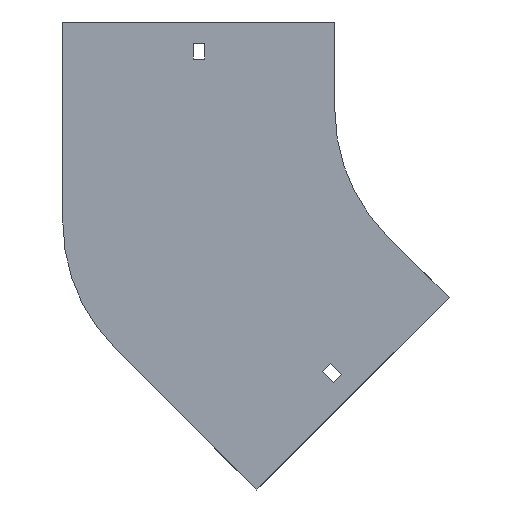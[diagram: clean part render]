
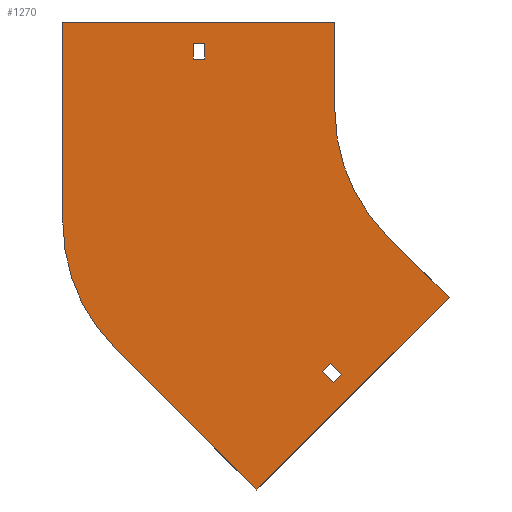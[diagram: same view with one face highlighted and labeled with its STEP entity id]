
A CAD part, front view. The second image highlights one B-rep face of the part: STEP entity #1270.
In plain terms, the highlighted planar face has unit normal (0, -1, 0).
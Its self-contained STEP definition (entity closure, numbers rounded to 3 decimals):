
#6 = LINE ( 'NONE', #275, #1631 ) ;
#25 = CARTESIAN_POINT ( 'NONE',  ( -254., 0., -63.789 ) ) ;
#28 = DIRECTION ( 'NONE',  ( 0., 0., 1. ) ) ;
#57 = CARTESIAN_POINT ( 'NONE',  ( -180.25, 0., 29. ) ) ;
#60 = EDGE_CURVE ( 'NONE', #469, #1370, #6, .T. ) ;
#84 = VECTOR ( 'NONE', #1503, 1000. ) ;
#89 = DIRECTION ( 'NONE',  ( 0., 0., -1. ) ) ;
#100 = VERTEX_POINT ( 'NONE', #1043 ) ;
#114 = ORIENTED_EDGE ( 'NONE', *, *, #833, .F. ) ;
#126 = CARTESIAN_POINT ( 'NONE',  ( -254., 0., 50. ) ) ;
#138 = DIRECTION ( 'NONE',  ( 0., 1., 0. ) ) ;
#139 = DIRECTION ( 'NONE',  ( 0., 0., -1. ) ) ;
#146 = ORIENTED_EDGE ( 'NONE', *, *, #430, .T. ) ;
#167 = DIRECTION ( 'NONE',  ( 0.707, 0., -0.707 ) ) ;
#214 = VERTEX_POINT ( 'NONE', #126 ) ;
#216 = EDGE_CURVE ( 'NONE', #415, #469, #1035, .T. ) ;
#219 = ORIENTED_EDGE ( 'NONE', *, *, #648, .F. ) ;
#224 = CARTESIAN_POINT ( 'NONE',  ( -173.75, 0., 29. ) ) ;
#234 = LINE ( 'NONE', #224, #393 ) ;
#251 = EDGE_CURVE ( 'NONE', #1370, #1879, #713, .T. ) ;
#254 = ORIENTED_EDGE ( 'NONE', *, *, #1469, .F. ) ;
#268 = CARTESIAN_POINT ( 'NONE',  ( -100., 0., 50. ) ) ;
#275 = CARTESIAN_POINT ( 'NONE',  ( -35.355, 0., -106.066 ) ) ;
#288 = LINE ( 'NONE', #1487, #1776 ) ;
#306 = LINE ( 'NONE', #903, #84 ) ;
#314 = AXIS2_PLACEMENT_3D ( 'NONE', #390, #406, #89 ) ;
#334 = EDGE_CURVE ( 'NONE', #748, #415, #842, .T. ) ;
#354 = EDGE_LOOP ( 'NONE', ( #818, #524, #114, #1863, #419, #404, #1283, #1840 ) ) ;
#357 = CARTESIAN_POINT ( 'NONE',  ( -70.711, 0., -70.711 ) ) ;
#364 = EDGE_CURVE ( 'NONE', #957, #214, #1535, .T. ) ;
#381 = EDGE_CURVE ( 'NONE', #1086, #664, #1058, .T. ) ;
#390 = CARTESIAN_POINT ( 'NONE',  ( 0., 0., 0. ) ) ;
#393 = VECTOR ( 'NONE', #578, 1000. ) ;
#395 = DIRECTION ( 'NONE',  ( 1., 0., 0. ) ) ;
#404 = ORIENTED_EDGE ( 'NONE', *, *, #216, .F. ) ;
#406 = DIRECTION ( 'NONE',  ( 0., -1., 0. ) ) ;
#415 = VERTEX_POINT ( 'NONE', #357 ) ;
#416 = DIRECTION ( 'NONE',  ( 1., 0., 0. ) ) ;
#419 = ORIENTED_EDGE ( 'NONE', *, *, #60, .F. ) ;
#421 = CARTESIAN_POINT ( 'NONE',  ( -180.25, 0., 38. ) ) ;
#430 = EDGE_CURVE ( 'NONE', #1444, #1750, #1163, .T. ) ;
#443 = DIRECTION ( 'NONE',  ( 0., 0., 1. ) ) ;
#469 = VERTEX_POINT ( 'NONE', #1015 ) ;
#524 = ORIENTED_EDGE ( 'NONE', *, *, #364, .F. ) ;
#529 = LINE ( 'NONE', #57, #1551 ) ;
#537 = ORIENTED_EDGE ( 'NONE', *, *, #1078, .T. ) ;
#551 = DIRECTION ( 'NONE',  ( -0.707, 0., -0.707 ) ) ;
#552 = FACE_BOUND ( 'NONE', #1874, .T. ) ;
#556 = CARTESIAN_POINT ( 'NONE',  ( -180.25, 0., 38. ) ) ;
#578 = DIRECTION ( 'NONE',  ( 0., 0., -1. ) ) ;
#648 = EDGE_CURVE ( 'NONE', #1376, #100, #306, .T. ) ;
#664 = VERTEX_POINT ( 'NONE', #1443 ) ;
#679 = VECTOR ( 'NONE', #1493, 1000. ) ;
#704 = EDGE_LOOP ( 'NONE', ( #537, #146, #1749, #1809 ) ) ;
#713 = LINE ( 'NONE', #1321, #679 ) ;
#743 = VECTOR ( 'NONE', #416, 1000. ) ;
#748 = VERTEX_POINT ( 'NONE', #1252 ) ;
#761 = DIRECTION ( 'NONE',  ( 0., 0., -1. ) ) ;
#785 = CARTESIAN_POINT ( 'NONE',  ( -254., 0., -63.789 ) ) ;
#793 = EDGE_CURVE ( 'NONE', #1750, #1574, #234, .T. ) ;
#814 = ORIENTED_EDGE ( 'NONE', *, *, #1432, .F. ) ;
#818 = ORIENTED_EDGE ( 'NONE', *, *, #1789, .F. ) ;
#833 = EDGE_CURVE ( 'NONE', #1879, #957, #972, .T. ) ;
#842 = CIRCLE ( 'NONE', #1854, 100. ) ;
#847 = VECTOR ( 'NONE', #1063, 1000. ) ;
#859 = CARTESIAN_POINT ( 'NONE',  ( -254., 0., 50. ) ) ;
#903 = CARTESIAN_POINT ( 'NONE',  ( -102.354, 0., -143.366 ) ) ;
#933 = VECTOR ( 'NONE', #167, 1000. ) ;
#935 = VECTOR ( 'NONE', #443, 1000. ) ;
#957 = VERTEX_POINT ( 'NONE', #25 ) ;
#963 = CARTESIAN_POINT ( 'NONE',  ( -106.95, 0., -147.962 ) ) ;
#972 = CIRCLE ( 'NONE', #1420, 100. ) ;
#984 = VECTOR ( 'NONE', #395, 1000. ) ;
#1015 = CARTESIAN_POINT ( 'NONE',  ( -35.355, 0., -106.066 ) ) ;
#1035 = LINE ( 'NONE', #1786, #847 ) ;
#1037 = VECTOR ( 'NONE', #28, 1000. ) ;
#1043 = CARTESIAN_POINT ( 'NONE',  ( -102.354, 0., -143.366 ) ) ;
#1058 = LINE ( 'NONE', #1512, #933 ) ;
#1063 = DIRECTION ( 'NONE',  ( 0.707, 0., -0.707 ) ) ;
#1078 = EDGE_CURVE ( 'NONE', #1151, #1444, #1108, .T. ) ;
#1079 = CARTESIAN_POINT ( 'NONE',  ( -173.75, 0., 29. ) ) ;
#1086 = VERTEX_POINT ( 'NONE', #963 ) ;
#1096 = DIRECTION ( 'NONE',  ( 0.707, 0., 0.707 ) ) ;
#1108 = LINE ( 'NONE', #1241, #1037 ) ;
#1151 = VERTEX_POINT ( 'NONE', #1399 ) ;
#1163 = LINE ( 'NONE', #556, #743 ) ;
#1174 = VECTOR ( 'NONE', #1096, 1000. ) ;
#1178 = CARTESIAN_POINT ( 'NONE',  ( -173.75, 0., 38. ) ) ;
#1241 = CARTESIAN_POINT ( 'NONE',  ( -180.25, 0., 29. ) ) ;
#1252 = CARTESIAN_POINT ( 'NONE',  ( -100., 0., 0. ) ) ;
#1265 = DIRECTION ( 'NONE',  ( -1., 0., 0. ) ) ;
#1270 = ADVANCED_FACE ( 'NONE', ( #1915, #1886, #552 ), #1421, .T. ) ;
#1283 = ORIENTED_EDGE ( 'NONE', *, *, #334, .F. ) ;
#1304 = CARTESIAN_POINT ( 'NONE',  ( -106.95, 0., -147.962 ) ) ;
#1312 = LINE ( 'NONE', #859, #984 ) ;
#1321 = CARTESIAN_POINT ( 'NONE',  ( -144.25, 0., -214.96 ) ) ;
#1331 = DIRECTION ( 'NONE',  ( -0.707, 0., -0.707 ) ) ;
#1355 = CARTESIAN_POINT ( 'NONE',  ( -154., 0., -63.789 ) ) ;
#1370 = VERTEX_POINT ( 'NONE', #1462 ) ;
#1376 = VERTEX_POINT ( 'NONE', #1499 ) ;
#1399 = CARTESIAN_POINT ( 'NONE',  ( -180.25, 0., 29. ) ) ;
#1418 = VERTEX_POINT ( 'NONE', #268 ) ;
#1419 = EDGE_CURVE ( 'NONE', #1418, #748, #288, .T. ) ;
#1420 = AXIS2_PLACEMENT_3D ( 'NONE', #1355, #138, #1677 ) ;
#1421 = PLANE ( 'NONE',  #314 ) ;
#1432 = EDGE_CURVE ( 'NONE', #100, #1086, #1777, .T. ) ;
#1443 = CARTESIAN_POINT ( 'NONE',  ( -100.586, 0., -154.326 ) ) ;
#1444 = VERTEX_POINT ( 'NONE', #421 ) ;
#1462 = CARTESIAN_POINT ( 'NONE',  ( -144.25, 0., -214.96 ) ) ;
#1469 = EDGE_CURVE ( 'NONE', #664, #1376, #1686, .T. ) ;
#1487 = CARTESIAN_POINT ( 'NONE',  ( -100., 0., 50. ) ) ;
#1493 = DIRECTION ( 'NONE',  ( -0.707, 0., 0.707 ) ) ;
#1499 = CARTESIAN_POINT ( 'NONE',  ( -95.99, 0., -149.73 ) ) ;
#1503 = DIRECTION ( 'NONE',  ( -0.707, 0., 0.707 ) ) ;
#1512 = CARTESIAN_POINT ( 'NONE',  ( -106.95, 0., -147.962 ) ) ;
#1535 = LINE ( 'NONE', #785, #935 ) ;
#1543 = CARTESIAN_POINT ( 'NONE',  ( 0., 0., 0. ) ) ;
#1551 = VECTOR ( 'NONE', #1265, 1000. ) ;
#1574 = VERTEX_POINT ( 'NONE', #1079 ) ;
#1581 = VECTOR ( 'NONE', #551, 1000. ) ;
#1603 = EDGE_CURVE ( 'NONE', #1574, #1151, #529, .T. ) ;
#1631 = VECTOR ( 'NONE', #1331, 1000. ) ;
#1677 = DIRECTION ( 'NONE',  ( 0., 0., 1. ) ) ;
#1680 = DIRECTION ( 'NONE',  ( 0., -1., 0. ) ) ;
#1686 = LINE ( 'NONE', #1853, #1174 ) ;
#1749 = ORIENTED_EDGE ( 'NONE', *, *, #793, .T. ) ;
#1750 = VERTEX_POINT ( 'NONE', #1178 ) ;
#1776 = VECTOR ( 'NONE', #139, 1000. ) ;
#1777 = LINE ( 'NONE', #1304, #1581 ) ;
#1786 = CARTESIAN_POINT ( 'NONE',  ( -70.711, 0., -70.711 ) ) ;
#1789 = EDGE_CURVE ( 'NONE', #214, #1418, #1312, .T. ) ;
#1809 = ORIENTED_EDGE ( 'NONE', *, *, #1603, .T. ) ;
#1826 = ORIENTED_EDGE ( 'NONE', *, *, #381, .F. ) ;
#1836 = CARTESIAN_POINT ( 'NONE',  ( -224.711, 0., -134.5 ) ) ;
#1840 = ORIENTED_EDGE ( 'NONE', *, *, #1419, .F. ) ;
#1853 = CARTESIAN_POINT ( 'NONE',  ( -100.586, 0., -154.326 ) ) ;
#1854 = AXIS2_PLACEMENT_3D ( 'NONE', #1543, #1680, #761 ) ;
#1863 = ORIENTED_EDGE ( 'NONE', *, *, #251, .F. ) ;
#1874 = EDGE_LOOP ( 'NONE', ( #254, #1826, #814, #219 ) ) ;
#1879 = VERTEX_POINT ( 'NONE', #1836 ) ;
#1886 = FACE_OUTER_BOUND ( 'NONE', #354, .T. ) ;
#1915 = FACE_BOUND ( 'NONE', #704, .T. ) ;
